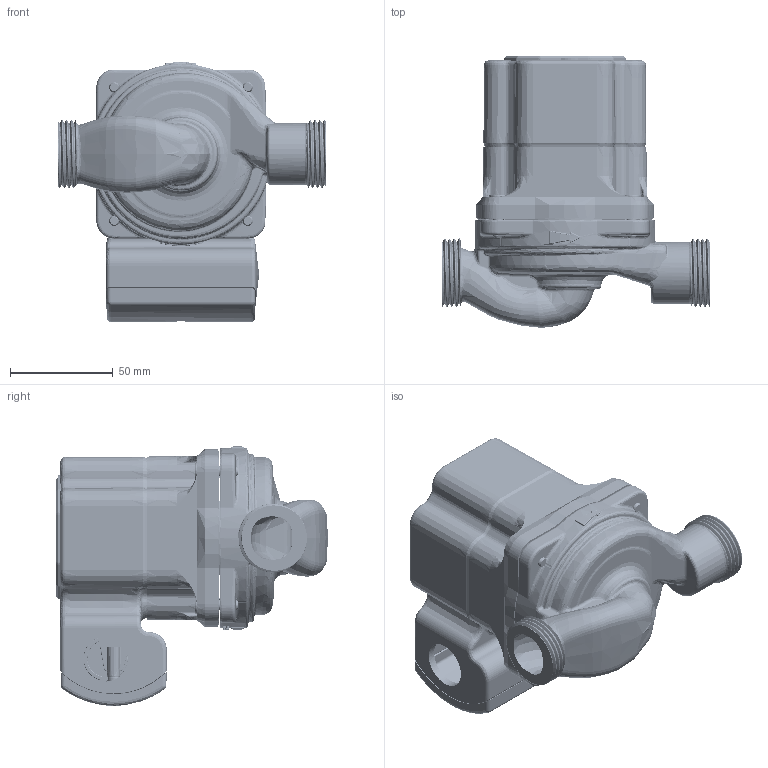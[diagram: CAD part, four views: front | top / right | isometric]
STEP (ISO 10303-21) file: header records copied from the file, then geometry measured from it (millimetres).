
FILE_DESCRIPTION (( 'STEP AP203' ), '1' );
FILE_NAME ('VM1816-DY2-US2W00.STEP', '2021-05-11T19:50:57', ( '' ), ( '' ), 'SwSTEP 2.0', 'SolidWorks 2019', '' );
FILE_SCHEMA (( 'CONFIG_CONTROL_DESIGN' ));
Products named in the file (1): VM1816-DY2-US2W00
Bounding box: 130.18 x 132.18 x 126.44 mm (x, y, z)
Surface area: 268026 mm2 (no closed solid volume)
Topology: 0 solids, 163 shells, 15058 faces, 38409 edges, 23015 vertices
Faces by surface type: bspline 5229, plane 4801, cylinder 4312, cone 532, torus 143, sphere 41
Entity records: 668557 total; most frequent: CARTESIAN_POINT 353642, ORIENTED_EDGE 75247, DIRECTION 51456, EDGE_CURVE 37651, VERTEX_POINT 23005, AXIS2_PLACEMENT_3D 17452, VECTOR 16552, LINE 16552
